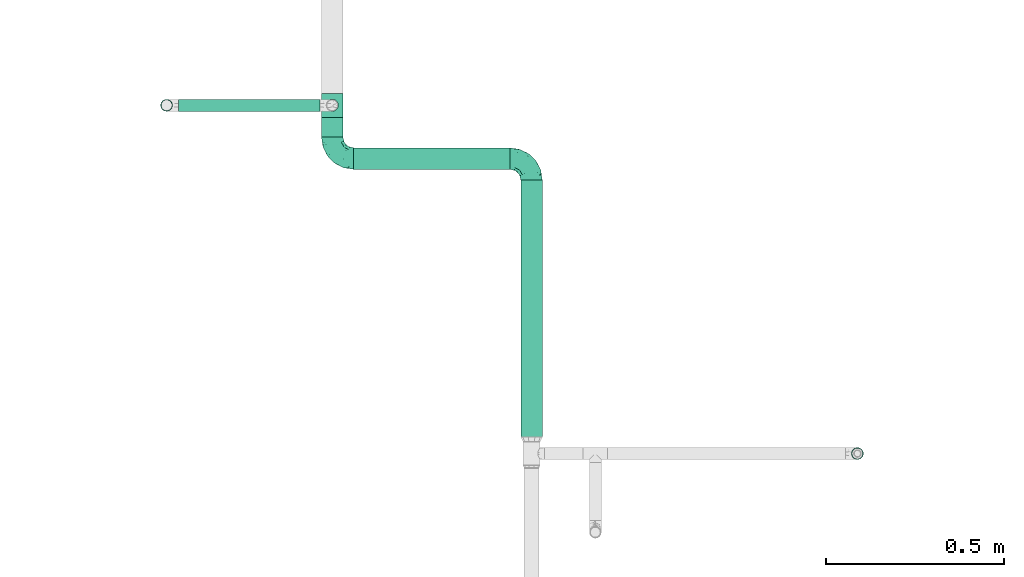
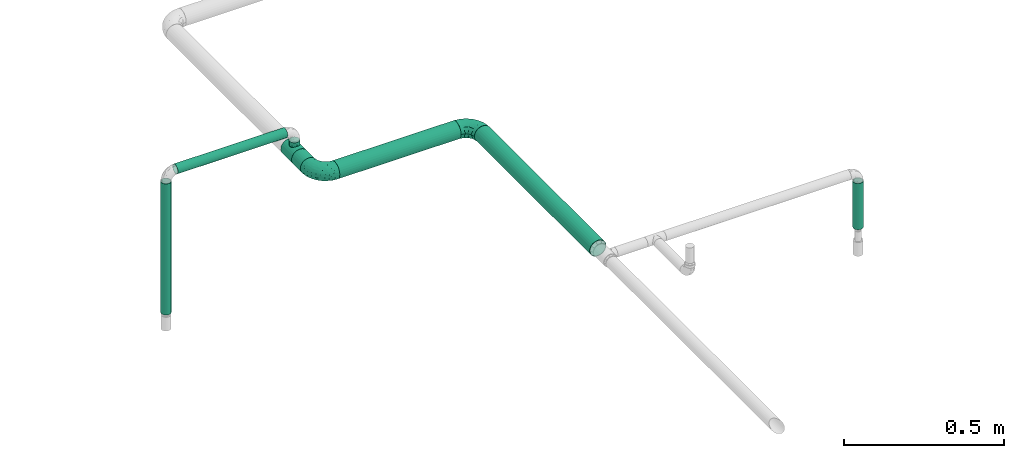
# One storey, part 3 of 43: 6 flow segments, 3 flow fittings.
"""IFC2X3 building model written with IfcOpenShell, lengths in millimetres."""

import ifcopenshell
import ifcopenshell.guid

model = None  # the IFC model being written
_history = None  # IfcOwnerHistory: only IFC2X3 demands one
_inside = {}  # id of a spatial element -> (the spatial element, [elements in it])
_under = {}  # id of a project, library or spatial element -> (it, [spatial elements below it])
_declared = {}  # id of a project -> (the project, [libraries it declares])
_typed = {}  # id of a type object -> (the type object, [elements of that type])
_made_of = {}  # id of a material, layer set ... -> (it, [elements and type objects made of it])


def new_model(schema):
    """Start an empty IFC model of exactly this schema.

    Asked for "IFC4X3", IfcOpenShell would pick the latest addendum, in which some entities
    have other attributes; the version numbers below select the first issue.
    IFC2X3 requires an IfcOwnerHistory on every rooted entity: one is made here for all.
    """
    global model, _history
    if schema == "IFC4X3":
        model = ifcopenshell.file(schema_version=(4, 3, 0, 0))
    else:
        model = ifcopenshell.file(schema=schema)
    _inside.clear()
    _under.clear()
    _declared.clear()
    _typed.clear()
    _made_of.clear()
    _history = None
    if model.schema == "IFC2X3":
        org = make("IfcOrganization", Name="unknown")
        user = make(
            "IfcPersonAndOrganization",
            ThePerson=make("IfcPerson", FamilyName="unknown"),
            TheOrganization=org,
        )
        app = make(
            "IfcApplication",
            ApplicationDeveloper=org,
            Version="unknown",
            ApplicationFullName="unknown",
            ApplicationIdentifier="unknown",
        )
        _history = make(
            "IfcOwnerHistory",
            OwningUser=user,
            OwningApplication=app,
            ChangeAction="ADDED",
            CreationDate=0,
        )
    return model


def make(cls, **values):
    """One entity of the class cls with the attributes given. An attribute that is None is left unset."""
    return model.create_entity(
        cls, **{name: value for name, value in values.items() if value is not None}
    )


def entity(cls, *values):
    """Any entity or typed value of the class cls, its attributes in the order of the schema. None: left unset."""
    e = model.create_entity(cls)
    for i, value in enumerate(values):
        if value is not None:
            e[i] = value
    return e


def rooted(cls, **values):
    """An entity with a GlobalId (a new one), such as an element, a storey or a relation."""
    return make(cls, GlobalId=ifcopenshell.guid.new(), OwnerHistory=_history, **values)


def si_unit(unit_type, name, prefix=None):
    """IfcSIUnit, for example si_unit("LENGTHUNIT", "METRE", prefix="MILLI")."""
    return make("IfcSIUnit", UnitType=unit_type, Prefix=prefix, Name=name)


def converted_unit(unit_type, name, factor, base, dimensions=None, offset=None):
    """IfcConversionBasedUnit, such as the inch: factor (a typed value) times the base unit."""
    return make(
        "IfcConversionBasedUnit"
        if offset is None
        else "IfcConversionBasedUnitWithOffset",
        ConversionOffset=offset,
        Dimensions=None
        if dimensions is None
        else entity("IfcDimensionalExponents", *dimensions),
        UnitType=unit_type,
        Name=name,
        ConversionFactor=make(
            "IfcMeasureWithUnit", ValueComponent=factor, UnitComponent=base
        ),
    )


def derived_unit(unit_type, elements):
    """IfcDerivedUnit: a product of units, each with its exponent."""
    return make(
        "IfcDerivedUnit",
        Elements=[
            make("IfcDerivedUnitElement", Unit=unit, Exponent=power)
            for unit, power in elements
        ],
        UnitType=unit_type,
    )


def assignment(units):
    """IfcUnitAssignment: the units of a project."""
    return None if units is None else make("IfcUnitAssignment", Units=units)


def point(xyz):
    """IfcCartesianPoint."""
    return None if xyz is None else make("IfcCartesianPoint", Coordinates=xyz)


def direction(xyz):
    """IfcDirection."""
    return None if xyz is None else make("IfcDirection", DirectionRatios=xyz)


def frame(location, z_axis=None, x_axis=None):
    """IfcAxis2Placement3D, a coordinate frame: its origin and axes. An axis left out is left unset."""
    return make(
        "IfcAxis2Placement3D",
        Location=point(location),
        Axis=direction(z_axis),
        RefDirection=direction(x_axis),
    )


def frame_2d(location, x_axis=None):
    """IfcAxis2Placement2D, a coordinate frame in the plane: its origin and x axis."""
    return make(
        "IfcAxis2Placement2D", Location=point(location), RefDirection=direction(x_axis)
    )


def origin_with_axes():
    """The frame at (0, 0, 0) with the z axis (0, 0, 1) and the x axis (1, 0, 0) written out."""
    return frame((0.0, 0.0, 0.0), z_axis=(0.0, 0.0, 1.0), x_axis=(1.0, 0.0, 0.0))


def origin_2d_with_axis():
    """The frame at (0, 0) in the plane with the x axis (1, 0) written out."""
    return frame_2d((0.0, 0.0), x_axis=(1.0, 0.0))


def place(relative_to, where):
    """IfcLocalPlacement: puts the frame where relative to a parent placement (None: the world)."""
    return make(
        "IfcLocalPlacement", PlacementRelTo=relative_to, RelativePlacement=where
    )


def context(
    kind, dimensions, precision=None, world=None, true_north=None, identifier=None
):
    """IfcGeometricRepresentationContext, for example the 3D "Model" context."""
    return make(
        "IfcGeometricRepresentationContext",
        ContextIdentifier=identifier,
        ContextType=kind,
        CoordinateSpaceDimension=dimensions,
        Precision=precision,
        WorldCoordinateSystem=world,
        TrueNorth=true_north,
    )


def subcontext(parent, identifier, kind, view, scale=None):
    """IfcGeometricRepresentationSubContext, for example "Body" below "Model"."""
    return make(
        "IfcGeometricRepresentationSubContext",
        ContextIdentifier=identifier,
        ContextType=kind,
        ParentContext=parent,
        TargetScale=scale,
        TargetView=view,
    )


def project(units=None, contexts=None):
    """IfcProject with its units and contexts."""
    return rooted(
        "IfcProject",
        Name="project",
        RepresentationContexts=contexts,
        UnitsInContext=assignment(units),
    )


def spatial(cls, under=None, at=None, **own):
    """A site, building, storey or space (cls), placed at a placement, below another one or the project."""
    s = rooted(cls, ObjectPlacement=at, **own)
    if under is not None:
        _under.setdefault(under.id(), (under, []))[1].append(s)
    return s


def profile(cls, at=None, kind="AREA", **sizes):
    """A parametric profile (cls). Its sizes go by their IFC names, for example OverallWidth=200.0."""
    return make(cls, ProfileType=kind, Position=at, **sizes)


def hollow_circle(**sizes):
    """IfcCircleHollowProfileDef."""
    return profile("IfcCircleHollowProfileDef", **sizes)


def extrude(swept, where, along, depth):
    """IfcExtrudedAreaSolid: the profile swept, set in the frame where, extruded along a direction by depth."""
    return make(
        "IfcExtrudedAreaSolid",
        SweptArea=swept,
        Position=where,
        ExtrudedDirection=direction(along),
        Depth=depth,
    )


def faces_of(points, faces, orient=None, outer=None):
    """IfcFace entities. A face is a list of loops; a loop is a list of indices into points, from 0.

    orient and outer hold one flag for each loop. By default every Orientation is true, the
    first loop of a face is its IfcFaceOuterBound and the others are IfcFaceBound.
    """
    made = []
    for i, loops in enumerate(faces):
        bounds = []
        for j, loop in enumerate(loops):
            is_outer = j == 0 if outer is None else outer[i][j]
            bounds.append(
                make(
                    "IfcFaceOuterBound" if is_outer else "IfcFaceBound",
                    Bound=make("IfcPolyLoop", Polygon=[points[k] for k in loop]),
                    Orientation=True if orient is None else orient[i][j],
                )
            )
        made.append(make("IfcFace", Bounds=bounds))
    return made


def open_shell(faces, orient=None, outer=None):
    """The faces of one IfcOpenShell. surface_model builds it on its shared points."""
    return ("IfcOpenShell", faces, orient, outer)


def surface_model(cls, points, shells):
    """IfcFaceBasedSurfaceModel or IfcShellBasedSurfaceModel (cls): surfaces that need not close."""
    shared = [point(p) for p in points]
    made = [make(c, CfsFaces=faces_of(shared, fs, o, b)) for c, fs, o, b in shells]
    if cls == "IfcFaceBasedSurfaceModel":
        return make(cls, FbsmFaces=made)
    return make(cls, SbsmBoundary=made)


def shape(context_of_items, identifier, shape_type, items):
    """IfcShapeRepresentation: the items that make up one representation, for example the "Body"."""
    return make(
        "IfcShapeRepresentation",
        ContextOfItems=context_of_items,
        RepresentationIdentifier=identifier,
        RepresentationType=shape_type,
        Items=items,
    )


def source(mapping_origin, context_of_items, identifier, shape_type, items):
    """IfcRepresentationMap: a shape defined once, which mapped items show again and again."""
    return make(
        "IfcRepresentationMap",
        MappingOrigin=mapping_origin,
        MappedRepresentation=shape(context_of_items, identifier, shape_type, items),
    )


def transform(
    local_origin,
    x_axis=None,
    y_axis=None,
    z_axis=None,
    scale=None,
    scale2=None,
    scale3=None,
    uniform=True,
):
    """IfcCartesianTransformationOperator3D, or its non-uniform kind. x_axis, y_axis, z_axis: its Axis1, 2, 3."""
    if uniform:
        return make(
            "IfcCartesianTransformationOperator3D",
            Axis1=direction(x_axis),
            Axis2=direction(y_axis),
            LocalOrigin=point(local_origin),
            Scale=scale,
            Axis3=direction(z_axis),
        )
    return make(
        "IfcCartesianTransformationOperator3DnonUniform",
        Axis1=direction(x_axis),
        Axis2=direction(y_axis),
        LocalOrigin=point(local_origin),
        Scale=scale,
        Axis3=direction(z_axis),
        Scale2=scale2,
        Scale3=scale3,
    )


def mapped(mapping_source, mapping_target):
    """IfcMappedItem: shows the shape of a source again, moved by a transform."""
    return make(
        "IfcMappedItem", MappingSource=mapping_source, MappingTarget=mapping_target
    )


def made_of(thing, what):
    """Note that an element or type object is made of a material, layer set ...; save() writes the relation."""
    if what is not None:
        _made_of.setdefault(what.id(), (what, []))[1].append(thing)
    return thing


def type_object(cls, material=None, **own):
    """A type object (cls), such as IfcWallType, which elements share."""
    return made_of(rooted(cls, **own), material)


def element(
    cls,
    number,
    at=None,
    inside=None,
    cuts=None,
    type_object=None,
    material=None,
    context=None,
    identifier="Body",
    shape_type=None,
    held_by="IfcProductDefinitionShape",
    body=None,
    shapes=None,
    **own,
):
    """One element of the class cls, such as IfcWall. Its Tag is "e" and its number.

    at: its placement. inside: the storey or other place that contains it. cuts: it is an
    opening in that element (IfcRelVoidsElement). A single representation is given by context,
    identifier, shape_type and body (its items); several are given by shapes. held_by: the class
    of the entity that holds the representations. save() writes the other relations.
    """
    e = rooted(cls, Tag="e%d" % number, ObjectPlacement=at, **own)
    if body is not None:
        shapes = [shape(context, identifier, shape_type, body)]
    if shapes is not None:
        e.Representation = make(held_by, Representations=shapes)
    if inside is not None:
        _inside.setdefault(inside.id(), (inside, []))[1].append(e)
    if cuts is not None:
        rooted(
            "IfcRelVoidsElement", RelatingBuildingElement=cuts, RelatedOpeningElement=e
        )
    if type_object is not None:
        _typed.setdefault(type_object.id(), (type_object, []))[1].append(e)
    return made_of(e, material)


def aggregate(whole, parts):
    """IfcRelAggregates: a whole, such as a stair, and the parts it consists of."""
    return rooted("IfcRelAggregates", RelatingObject=whole, RelatedObjects=parts)


def save(model, path):
    """Write the relations noted so far, then the file.

    IfcRelAggregates (storeys below a building ...), IfcRelContainedInSpatialStructure (elements
    in a storey), IfcRelDefinesByType, IfcRelAssociatesMaterial and IfcRelDeclares: one each for
    every whole, place, type object, material and project.
    """
    for whole, parts in _under.values():
        aggregate(whole, parts)
    for where, things in _inside.values():
        rooted(
            "IfcRelContainedInSpatialStructure",
            RelatedElements=things,
            RelatingStructure=where,
        )
    for kind, things in _typed.values():
        rooted("IfcRelDefinesByType", RelatedObjects=things, RelatingType=kind)
    for what, things in _made_of.values():
        rooted("IfcRelAssociatesMaterial", RelatedObjects=things, RelatingMaterial=what)
    for by, libraries in _declared.values():
        rooted("IfcRelDeclares", RelatingContext=by, RelatedDefinitions=libraries)
    model.write(path)


model = new_model("IFC2X3")

# Units and contexts
model_context = context("Model", 3, precision=0.01, world=frame((0.0, 4.29681676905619e-09, 0.0)), true_north=direction((4.01073788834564e-13, 1.0)))
plan_context = context("Plan", 3, precision=0.01, world=frame((0.0, 4.29681676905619e-09, 0.0)), true_north=direction((4.01073788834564e-13, 1.0)))
body_context = subcontext(model_context, "Body", "Model", "MODEL_VIEW")
ifc_project = project(units=[converted_unit("PLANEANGLEUNIT", "DEGREE", entity("IfcPositiveLengthMeasure", 0.0174532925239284), si_unit("PLANEANGLEUNIT", "RADIAN"), dimensions=[0, 0, 0, 0, 0, 0, 0]), si_unit("AREAUNIT", "SQUARE_METRE"), si_unit("LENGTHUNIT", "METRE", prefix="MILLI"), si_unit("MASSUNIT", "GRAM", prefix="KILO"), si_unit("POWERUNIT", "WATT"), si_unit("PRESSUREUNIT", "PASCAL"), si_unit("FORCEUNIT", "NEWTON", prefix="KILO"), si_unit("ELECTRICVOLTAGEUNIT", "VOLT"), si_unit("ELECTRICCURRENTUNIT", "AMPERE"), si_unit("THERMODYNAMICTEMPERATUREUNIT", "DEGREE_CELSIUS"), si_unit("TIMEUNIT", "SECOND"), si_unit("VOLUMEUNIT", "CUBIC_METRE"), derived_unit("LINEARVELOCITYUNIT", [(si_unit("LENGTHUNIT", "METRE"), 1), (si_unit("TIMEUNIT", "SECOND"), -1)]), derived_unit("VOLUMETRICFLOWRATEUNIT", [(si_unit("VOLUMEUNIT", "CUBIC_METRE"), 1), (si_unit("TIMEUNIT", "SECOND"), -1)]), derived_unit("THERMALTRANSMITTANCEUNIT", [(si_unit("POWERUNIT", "WATT"), 1), (si_unit("THERMODYNAMICTEMPERATUREUNIT", "KELVIN"), -1), (si_unit("AREAUNIT", "SQUARE_METRE"), -1)]), derived_unit("SOUNDPRESSUREUNIT", [(si_unit("PRESSUREUNIT", "PASCAL"), 1)])], contexts=[model_context, plan_context])

# Site, building, storey
site_placement = place(None, frame((0.0, -4.29681676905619e-09, 0.0), z_axis=(0.0, 0.0, 1.0), x_axis=(1.0, 0.0, 0.0)))
site = spatial("IfcSite", under=ifc_project, at=site_placement, CompositionType="ELEMENT")
building_placement = place(site_placement, frame((0.0, 4.29681676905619e-09, 0.0), z_axis=(0.0, 0.0, 1.0), x_axis=(1.0, 0.0, 0.0)))
building = spatial("IfcBuilding", under=site, at=building_placement, Name="mc-building", CompositionType="ELEMENT")
storey_placement = place(building_placement, frame((0.0, 0.0, 210900.0), z_axis=(0.0, 0.0, 1.0), x_axis=(1.0, 0.0, 0.0)))
storey = spatial("IfcBuildingStorey", under=building, at=storey_placement, Name="Nivå F", CompositionType="ELEMENT", Elevation=210900.0)

# Flow fittings
pipe_fitting_type_1 = type_object("IfcPipeFittingType", Name="magi_pipe_fe_tee_centric_90_NOR", PredefinedType="JUNCTION")
shared_shape_1 = source(origin_with_axes(), body_context, "Body", "SurfaceModel", [
    surface_model("IfcShellBasedSurfaceModel", [(-33.8, 15.1, -26.15397), (-33.8, 7.81634, -29.17096), (-33.8, 0.0, -30.2), (-33.8, 29.17096, -7.81634), (-33.8, 26.15397, -15.1), (-33.8, 21.35462, -21.35462), (-33.8, 30.2, 0.0), (-33.8, -30.2, 0.0), (-33.8, -15.1, -26.15397), (-33.8, -21.35462, -21.35462), (-33.8, -7.81634, -29.17096), (-33.8, -26.15397, -15.1), (-33.8, -29.17096, -7.81634), (-33.8, 26.15397, 15.1), (-33.8, 29.17096, 7.81634), (-33.8, 15.1, 26.15397), (-33.8, -21.35462, 21.35462), (-33.8, 21.35462, 21.35462), (-33.8, 7.81634, 29.17096), (-33.8, -29.17096, 7.81634), (-33.8, -26.15397, 15.1), (-33.8, -7.81634, 29.17096), (-33.8, 0.0, 30.2), (-33.8, -15.1, 26.15397), (33.8, 29.17096, -7.81634), (33.8, 0.0, -30.2), (33.8, 7.81634, -29.17096), (33.8, 21.35462, -21.35462), (33.8, 15.1, -26.15397), (33.8, 26.15397, -15.1), (33.8, -30.2, 0.0), (33.8, -7.81634, -29.17096), (33.8, -21.35462, -21.35462), (33.8, -15.1, -26.15397), (33.8, -29.17096, -7.81634), (33.8, -26.15397, -15.1), (33.8, 30.2, 0.0), (33.8, 29.17096, 7.81634), (33.8, 26.15397, 15.1), (33.8, -29.17096, 7.81634), (33.8, 15.1, 26.15397), (33.8, 7.81634, 29.17096), (33.8, 21.35462, 21.35462), (33.8, -21.35462, 21.35462), (33.8, -26.15397, 15.1), (33.8, -15.1, 26.15397), (33.8, 0.0, 30.2), (33.8, -7.81634, 29.17096), (33.8, -29.68548, 3.90817), (15.846, -29.62306, 5.87488), (16.373, -29.91153, 2.93744), (12.91037, -28.16217, 10.90561), (2.99213, -25.2068, 16.63301), (16.9, -30.2, 0.0), (33.8, -27.66246, 11.45817), (8.50854, -26.43531, 14.60187), (-8.51006, -26.43579, 14.60099), (-33.8, -27.66246, 11.45817), (-12.91447, -28.16405, 10.90075), (-15.84655, -29.62335, 5.87341), (-33.8, -29.68548, 3.90817), (-16.37327, -29.91168, 2.93671), (-16.9, -30.2, 0.0), (-2.99705, -25.20739, 16.63213), (2.99213, -25.2068, -16.63301), (-16.37327, -29.91168, -2.93671), (8.50854, -26.43531, -14.60187), (33.8, -27.66246, -11.45817), (16.373, -29.91153, -2.93744), (-33.8, -29.68548, -3.90817), (-15.84655, -29.62335, -5.87341), (15.846, -29.62306, -5.87488), (12.91037, -28.16217, -10.90561), (33.8, -29.68548, -3.90817), (-2.99705, -25.20739, -16.63213), (-8.51006, -26.43579, -14.60099), (-12.91447, -28.16405, -10.90075), (-33.8, -27.66246, -11.45817), (4.37404, -45.3, -16.32415), (-16.9, -45.3, 0.0), (0.0, -45.3, -16.9), (14.63583, -45.3, -8.45), (8.45, -45.3, -14.63583), (16.32415, -45.3, -4.37404), (11.9501, -45.3, -11.9501), (-11.9501, -45.3, -11.9501), (-8.45, -45.3, -14.63583), (-4.37404, -45.3, -16.32415), (-14.63583, -45.3, -8.45), (-16.32415, -45.3, -4.37404), (16.9, -45.3, 0.0), (8.45, -45.3, 14.63583), (16.32415, -45.3, 4.37404), (14.63583, -45.3, 8.45), (-8.45, -45.3, 14.63583), (11.9501, -45.3, 11.9501), (4.37404, -45.3, 16.32415), (-16.32415, -45.3, 4.37404), (-11.9501, -45.3, 11.9501), (-14.63583, -45.3, 8.45), (0.0, -45.3, 16.9), (-4.37404, -45.3, 16.32415), (-5.75355, -25.82159, 15.61656), (-0.00246, -25.20709, 16.63257), (5.75034, -25.82105, 15.61744), (5.75034, -25.82105, -15.61744), (-0.00246, -25.20709, -16.63257), (-5.75355, -25.82159, -15.61656)], [open_shell([[[0, 1, 2]], [[3, 0, 2]], [[0, 3, 4]], [[5, 0, 4]], [[6, 2, 7]], [[8, 9, 10]], [[9, 2, 10]], [[11, 12, 9]], [[7, 9, 12]], [[9, 7, 2]], [[6, 3, 2]], [[13, 14, 6]], [[7, 15, 13]], [[7, 16, 15]], [[17, 13, 15]], [[18, 15, 16]], [[19, 20, 7]], [[7, 20, 16]], [[21, 22, 23]], [[16, 23, 22]], [[16, 22, 18]], [[7, 13, 6]], [[24, 25, 26]], [[27, 26, 28]], [[29, 24, 26]], [[29, 26, 27]], [[25, 24, 30]], [[31, 32, 33]], [[32, 31, 34]], [[32, 34, 35]], [[34, 31, 30]], [[31, 25, 30]], [[24, 36, 30]], [[36, 37, 38]], [[39, 36, 38]], [[40, 41, 38]], [[40, 38, 42]], [[43, 38, 41]], [[39, 43, 44]], [[39, 38, 43]], [[45, 46, 47]], [[46, 45, 43]], [[41, 46, 43]], [[36, 39, 30]], [[48, 39, 49]], [[30, 48, 50]], [[39, 51, 49]], [[44, 43, 52]], [[30, 50, 53]], [[51, 54, 55]], [[52, 55, 44]], [[48, 49, 50]], [[43, 16, 52]], [[55, 54, 44]], [[56, 57, 58]], [[59, 60, 61]], [[62, 61, 7]], [[59, 58, 19]], [[56, 63, 20]], [[51, 39, 54]], [[20, 57, 56]], [[20, 63, 16]], [[58, 57, 19]], [[63, 52, 16]], [[7, 61, 60]], [[59, 19, 60]], [[43, 23, 16]], [[22, 47, 46]], [[21, 45, 47]], [[18, 46, 41]], [[38, 37, 14]], [[17, 40, 42]], [[13, 42, 38]], [[41, 40, 15]], [[6, 37, 36]], [[23, 45, 21]], [[21, 47, 22]], [[18, 22, 46]], [[41, 15, 18]], [[15, 40, 17]], [[13, 17, 42]], [[14, 13, 38]], [[37, 6, 14]], [[45, 23, 43]], [[4, 24, 29]], [[3, 36, 24]], [[5, 29, 27]], [[25, 31, 10]], [[1, 28, 26]], [[2, 26, 25]], [[27, 28, 0]], [[8, 31, 33]], [[6, 36, 3]], [[3, 24, 4]], [[5, 4, 29]], [[27, 0, 5]], [[0, 28, 1]], [[2, 1, 26]], [[10, 2, 25]], [[31, 8, 10]], [[33, 9, 8]], [[32, 35, 64]], [[7, 65, 62]], [[66, 64, 35]], [[67, 66, 35]], [[32, 64, 9]], [[53, 68, 30]], [[69, 70, 65]], [[71, 72, 34]], [[71, 73, 68]], [[66, 67, 72]], [[34, 72, 67]], [[74, 75, 11]], [[76, 12, 77]], [[11, 9, 74]], [[76, 77, 75]], [[74, 9, 64]], [[76, 70, 12]], [[71, 34, 73]], [[70, 69, 12]], [[65, 7, 69]], [[30, 68, 73]], [[77, 11, 75]], [[32, 9, 33]], [[78, 79, 80]], [[81, 78, 82]], [[81, 83, 78]], [[81, 82, 84]], [[79, 78, 83]], [[80, 85, 86]], [[86, 87, 80]], [[88, 79, 89]], [[85, 80, 88]], [[79, 88, 80]], [[83, 90, 79]], [[91, 90, 92]], [[91, 92, 93]], [[94, 79, 91]], [[91, 93, 95]], [[94, 91, 96]], [[97, 98, 99]], [[98, 97, 94]], [[94, 100, 101]], [[97, 79, 94]], [[96, 100, 94]], [[91, 79, 90]], [[97, 61, 79]], [[58, 99, 98]], [[97, 99, 59]], [[98, 94, 56]], [[61, 62, 79]], [[59, 99, 58]], [[101, 63, 102]], [[56, 58, 98]], [[100, 52, 103]], [[91, 104, 96]], [[100, 96, 52]], [[50, 49, 92]], [[50, 90, 53]], [[104, 91, 55]], [[102, 94, 101]], [[102, 56, 94]], [[100, 63, 101]], [[97, 59, 61]], [[55, 91, 95]], [[95, 51, 55]], [[52, 96, 104]], [[92, 49, 93]], [[90, 50, 92]], [[93, 49, 51]], [[93, 51, 95]], [[103, 63, 100]], [[83, 68, 90]], [[72, 81, 84]], [[83, 81, 71]], [[84, 82, 66]], [[68, 53, 90]], [[71, 81, 72]], [[78, 64, 105]], [[66, 72, 84]], [[80, 74, 106]], [[86, 107, 87]], [[65, 70, 89]], [[105, 82, 78]], [[105, 66, 82]], [[75, 86, 85]], [[83, 71, 68]], [[70, 88, 89]], [[65, 79, 62]], [[85, 88, 76]], [[80, 64, 78]], [[87, 107, 74]], [[74, 80, 87]], [[75, 107, 86]], [[75, 85, 76]], [[76, 88, 70]], [[79, 65, 89]], [[106, 64, 80]]])]),
])
flow_fitting_placement = place(storey_placement, frame((607319.57252, 693237.31902, 2660.0), z_axis=(1.0, 0.0, 0.0), x_axis=(0.0, -1.0, 0.0)))
element("IfcFlowFitting", 1, at=flow_fitting_placement, inside=storey, type_object=pipe_fitting_type_1, Name="magi_pipe_fe_tee_centric_90_NOR", context=body_context, shape_type="MappedRepresentation", body=[
    mapped(shared_shape_1, transform((0.0, 0.0, 0.0), scale=1.0)),
])
pipe_fitting_type_2 = type_object("IfcPipeFittingType", Name="magi_pipe_fe_elbow_short_001", PredefinedType="BEND")
shared_shape_2 = source(origin_with_axes(), body_context, "Body", "SurfaceModel", [
    surface_model("IfcShellBasedSurfaceModel", [(-60.4, 15.1, -26.15397), (-60.4, 7.81634, -29.17096), (-60.4, 0.0, -30.2), (-60.4, -21.35462, -21.35462), (-60.4, 26.15397, -15.1), (-60.4, 21.35462, -21.35462), (-60.4, 29.17096, -7.81634), (-60.4, -15.1, -26.15397), (-60.4, -7.81634, -29.17096), (-60.4, -26.15397, -15.1), (-60.4, -29.17096, -7.81634), (-60.4, -30.2, 0.0), (-60.4, -29.17096, 7.81634), (-60.4, 29.17096, 7.81634), (-60.4, -21.35462, 21.35462), (-60.4, 26.15397, 15.1), (-60.4, 21.35462, 21.35462), (-60.4, 7.81634, 29.17096), (-60.4, 15.1, 26.15397), (-60.4, -26.15397, 15.1), (-60.4, -7.81634, 29.17096), (-60.4, 0.0, 30.2), (-60.4, -15.1, 26.15397), (-60.4, 30.2, 0.0), (0.0, 60.4, -30.2), (-7.81634, 60.4, -29.17096), (-15.1, 60.4, -26.15397), (-26.15397, 60.4, -15.1), (-29.17096, 60.4, -7.81634), (-21.35462, 60.4, -21.35462), (29.17096, 60.4, -7.81634), (7.81634, 60.4, -29.17096), (21.35462, 60.4, -21.35462), (15.1, 60.4, -26.15397), (26.15397, 60.4, -15.1), (29.17096, 60.4, 7.81634), (30.2, 60.4, 0.0), (-29.17096, 60.4, 7.81634), (21.35462, 60.4, 21.35462), (-21.35462, 60.4, 21.35462), (-26.15397, 60.4, 15.1), (-15.1, 60.4, 26.15397), (-7.81634, 60.4, 29.17096), (26.15397, 60.4, 15.1), (15.1, 60.4, 26.15397), (0.0, 60.4, 30.2), (7.81634, 60.4, 29.17096), (-30.2, 60.4, 0.0), (-40.79975, -26.48639, 9.49143), (-44.2927, -23.46036, 16.95222), (-32.40306, -25.76572, 0.0), (-45.54716, -27.84754, 0.0), (-7.73382, -10.42985, 11.64553), (-2.102, -8.06735, 6.35117), (1.74449, -1.74448, 12.51332), (-46.13593, -4.00068, 29.68351), (-42.2898, 4.62925, 30.14853), (10.31662, 7.37496, 11.34434), (18.44156, 24.57514, 15.02148), (7.07276, 10.95732, 19.27498), (-30.06693, -0.27102, 29.27145), (-44.17726, -11.39441, 27.16031), (-23.4551, -7.13383, 25.24246), (-38.74025, -17.25266, 22.43475), (-27.059, -23.14697, 6.2131), (-19.77486, -19.33133, 0.0), (-10.95732, -7.07276, 19.27498), (-5.39458, 5.39458, 24.69106), (-29.52069, 48.20084, 13.12597), (-25.22813, 47.01796, 19.8404), (-11.27311, 52.093, 28.2877), (-4.13904, 45.17494, 30.12582), (-46.55352, 11.8443, 28.52822), (-7.88305, 20.22717, 29.65331), (-15.00576, 5.54025, 28.20072), (-3.0852, 16.31623, 27.75343), (-52.24998, 18.2886, 24.60768), (-10.49591, 29.69865, 30.14582), (-22.36958, 22.36958, 29.4662), (-17.98262, 13.19715, 30.04443), (-47.74519, 32.16745, 6.63994), (-48.21585, 29.51581, 13.12396), (-37.49729, 37.49729, 11.28901), (-47.20967, 25.1754, 19.81929), (17.25266, 38.74025, 22.43475), (-31.32046, 40.03273, 17.09289), (11.39441, 44.17725, 27.16031), (23.46036, 44.2927, 16.95222), (26.48639, 40.79975, 9.49143), (-7.14666, -12.89694, 0.0), (-14.66463, -16.61192, 7.82462), (4.00068, 46.13593, 29.68351), (-33.18602, 12.93608, 29.65955), (-29.63414, 7.40029, 30.18711), (19.33133, 19.77486, 0.0), (23.14697, 27.059, 6.2131), (16.61192, 14.66463, 7.82462), (27.84754, 45.54716, 0.0), (-32.10611, 20.49149, 27.93323), (-24.57514, -18.44156, 15.02148), (-21.89487, 39.03366, 25.38224), (-18.45005, 50.6405, 24.73297), (-31.78933, 48.71949, 6.47886), (-37.84917, 39.61073, 5.315), (13.91334, 24.32737, 20.46816), (7.13383, 23.4551, 25.24246), (-34.24603, 45.3, 0.0), (-27.95749, 31.89166, 24.81537), (-41.58677, 20.50028, 25.43151), (-0.46157, 0.46157, 17.84239), (-17.23338, 31.26213, 29.03145), (-24.05994, 29.23812, 27.47858), (-13.06094, 40.92174, 28.76128), (-31.83392, 33.72702, 21.39203), (-38.78737, 32.45032, 16.84022), (0.27102, 30.06693, 29.27145), (-24.21469, -13.23741, 21.05734), (8.23548, 2.19333, 6.02161), (25.76572, 32.40306, 0.0), (12.89694, 7.14666, 0.0), (-45.3, 34.24603, 0.0), (2.87514, -2.87514, 0.0), (-44.53432, 26.00869, -20.11577), (-48.18822, 29.5248, -13.12766), (-24.67192, -7.62159, -25.33714), (-26.22398, -0.37671, -28.72374), (-12.13397, -0.50536, -24.74577), (-47.80891, 3.81859, -30.10171), (-44.05719, -27.03585, -9.84546), (-37.94552, -22.39569, -16.35738), (-28.81663, -22.64668, -10.132), (-43.93799, 12.32789, -28.63778), (-33.27, 7.1392, -30.19348), (-26.0087, 44.53432, -20.11577), (-48.89164, 31.68872, -6.60822), (-18.95522, 47.41145, -24.9828), (-12.32789, 43.93799, -28.63778), (-38.42778, 38.42778, -7.21049), (18.04263, 43.69152, -22.80146), (10.42233, 38.24532, -26.85918), (11.90576, 51.00473, -27.48545), (-5.88381, -10.62327, -7.95335), (-5.9694, -7.83116, -13.76182), (3.24899, -2.56331, -7.96861), (-17.62229, 16.32998, -30.18286), (-28.62959, 17.86952, -29.30113), (-47.41145, 18.95522, -24.98279), (-50.84455, -24.04089, -17.54629), (-29.38053, 34.30665, -22.74674), (-27.91099, 27.91099, -26.51666), (-36.91219, 25.51094, -23.99233), (2.63361, -0.55507, -12.94367), (-43.69152, -18.04263, -22.80146), (22.39569, 37.94552, -16.35738), (27.03585, 44.05719, -9.84546), (22.64668, 28.81663, -10.132), (-51.00473, -11.90576, -27.48545), (3.80785, 44.49426, -29.64782), (-19.0921, -14.69952, -16.47487), (-22.5489, -12.31934, -21.1263), (-10.94772, -7.46239, -18.88204), (-32.95885, -13.78948, -23.71249), (-38.24532, -10.42233, -26.85918), (-44.49427, -3.80785, -29.64782), (-22.6301, 37.15314, -25.58239), (-31.68872, 48.89164, -6.60822), (-3.8186, 47.80891, -30.10171), (-10.66133, 10.66133, -28.51691), (0.37671, 26.22398, -28.72374), (1.27136, 14.18619, -25.18541), (-29.5248, 48.18821, -13.12766), (-36.27113, 36.27113, -14.88553), (24.04089, 50.84455, -17.54629), (17.50188, 24.2636, -16.21902), (9.73525, 11.44907, -16.75087), (12.31934, 22.5489, -21.1263), (6.24176, 25.78208, -26.38266), (-7.1392, 33.27, -30.19348), (-36.7166, 19.4356, -27.21946), (-18.00754, 29.38864, -29.15505), (-0.28629, 0.28629, -17.49884), (-13.98848, -16.88492, -5.19509), (15.48569, 15.00432, -11.24742), (16.88492, 13.98848, -5.19509), (3.55782, 9.20508, -21.18402), (-15.00432, -15.48569, -11.24742)], [open_shell([[[0, 1, 2]], [[0, 2, 3]], [[4, 0, 3]], [[5, 0, 4]], [[6, 4, 3]], [[7, 3, 8]], [[3, 2, 8]], [[9, 10, 3]], [[3, 10, 6]], [[11, 12, 10]], [[13, 6, 10]], [[13, 10, 14]], [[15, 13, 16]], [[17, 18, 16]], [[13, 17, 16]], [[17, 13, 14]], [[19, 14, 12]], [[12, 14, 10]], [[20, 21, 22]], [[17, 14, 22]], [[17, 22, 21]], [[13, 23, 6]], [[24, 25, 26]], [[24, 26, 27]], [[27, 28, 24]], [[27, 26, 29]], [[24, 28, 30]], [[31, 32, 33]], [[31, 24, 32]], [[32, 30, 34]], [[24, 30, 32]], [[30, 35, 36]], [[30, 28, 37]], [[38, 30, 37]], [[39, 37, 40]], [[39, 41, 42]], [[39, 42, 37]], [[38, 37, 42]], [[35, 38, 43]], [[30, 38, 35]], [[44, 45, 46]], [[44, 38, 42]], [[45, 44, 42]], [[28, 47, 37]], [[48, 49, 19]], [[50, 48, 51]], [[52, 53, 54]], [[12, 48, 19]], [[12, 51, 48]], [[21, 55, 56]], [[19, 49, 14]], [[57, 58, 59]], [[60, 61, 62]], [[63, 22, 14]], [[63, 61, 22]], [[64, 50, 65]], [[62, 66, 67]], [[40, 68, 69]], [[42, 70, 71]], [[17, 72, 18]], [[73, 74, 75]], [[18, 76, 16]], [[20, 55, 21]], [[77, 78, 79]], [[80, 81, 82]], [[15, 83, 81]], [[84, 38, 44]], [[23, 13, 80]], [[13, 15, 81]], [[68, 85, 69]], [[83, 15, 16]], [[21, 56, 17]], [[44, 86, 84]], [[16, 76, 83]], [[87, 58, 88]], [[40, 37, 68]], [[89, 90, 65]], [[45, 91, 46]], [[65, 90, 64]], [[45, 42, 71]], [[92, 93, 79]], [[88, 35, 43]], [[43, 38, 87]], [[87, 88, 43]], [[94, 95, 96]], [[88, 97, 35]], [[98, 72, 92]], [[49, 99, 63]], [[69, 100, 101]], [[82, 102, 103]], [[104, 105, 59]], [[106, 102, 47]], [[98, 107, 108]], [[102, 82, 68]], [[86, 44, 46]], [[69, 39, 40]], [[109, 54, 57]], [[110, 100, 111]], [[22, 61, 20]], [[101, 41, 39]], [[70, 42, 41]], [[112, 77, 71]], [[84, 86, 105]], [[96, 95, 58]], [[100, 69, 113]], [[72, 17, 56]], [[108, 113, 83]], [[81, 114, 82]], [[112, 110, 77]], [[91, 71, 115]], [[62, 61, 63]], [[55, 61, 60]], [[116, 99, 66]], [[74, 62, 67]], [[91, 86, 46]], [[105, 86, 115]], [[75, 105, 115]], [[109, 67, 66]], [[59, 105, 67]], [[48, 64, 99]], [[99, 49, 48]], [[63, 14, 49]], [[38, 84, 87]], [[58, 87, 84]], [[92, 72, 56]], [[76, 72, 108]], [[102, 68, 37]], [[82, 114, 85]], [[98, 111, 107]], [[112, 70, 101]], [[114, 83, 113]], [[82, 103, 80]], [[92, 79, 78]], [[115, 71, 77]], [[74, 79, 60]], [[77, 79, 73]], [[71, 91, 45]], [[86, 91, 115]], [[61, 55, 20]], [[56, 55, 60]], [[57, 54, 117]], [[104, 59, 58]], [[116, 66, 62]], [[52, 99, 90]], [[12, 11, 51]], [[97, 88, 118]], [[97, 36, 35]], [[53, 90, 89]], [[90, 53, 52]], [[94, 96, 119]], [[88, 95, 118]], [[117, 54, 53]], [[92, 56, 93]], [[98, 92, 78]], [[111, 98, 78]], [[72, 98, 108]], [[110, 111, 78]], [[107, 111, 100]], [[47, 102, 37]], [[102, 106, 103]], [[106, 120, 103]], [[103, 120, 80]], [[23, 80, 120]], [[13, 81, 80]], [[56, 60, 93]], [[60, 79, 93]], [[117, 121, 119]], [[121, 117, 53]], [[53, 89, 121]], [[119, 96, 117]], [[117, 96, 57]], [[77, 110, 78]], [[100, 110, 112]], [[83, 114, 81]], [[85, 114, 113]], [[69, 85, 113]], [[82, 85, 68]], [[109, 52, 54]], [[99, 52, 66]], [[69, 101, 39]], [[112, 101, 100]], [[100, 113, 107]], [[108, 107, 113]], [[62, 74, 60]], [[75, 74, 67]], [[105, 75, 67]], [[73, 75, 115]], [[77, 73, 115]], [[74, 73, 79]], [[99, 64, 90]], [[50, 64, 48]], [[118, 95, 94]], [[58, 95, 88]], [[58, 57, 96]], [[109, 57, 59]], [[72, 76, 18]], [[83, 76, 108]], [[101, 70, 41]], [[71, 70, 112]], [[58, 84, 104]], [[105, 104, 84]], [[67, 109, 59]], [[52, 109, 66]], [[62, 63, 116]], [[99, 116, 63]], [[122, 4, 123]], [[124, 125, 126]], [[2, 1, 127]], [[128, 129, 130]], [[127, 131, 132]], [[27, 29, 133]], [[120, 134, 23]], [[135, 26, 136]], [[123, 134, 137]], [[138, 139, 140]], [[122, 5, 4]], [[141, 142, 143]], [[144, 132, 145]], [[131, 0, 146]], [[128, 9, 147]], [[148, 149, 150]], [[128, 51, 10]], [[142, 151, 143]], [[152, 3, 7]], [[153, 154, 155]], [[156, 152, 7]], [[31, 157, 24]], [[158, 159, 160]], [[147, 9, 3]], [[129, 152, 161]], [[156, 7, 8]], [[162, 163, 125]], [[154, 34, 30]], [[120, 106, 137]], [[149, 148, 164]], [[47, 28, 165]], [[163, 8, 2]], [[4, 6, 123]], [[25, 166, 136]], [[167, 168, 169]], [[170, 133, 171]], [[25, 24, 166]], [[33, 32, 138]], [[157, 31, 140]], [[28, 27, 170]], [[32, 34, 172]], [[26, 135, 29]], [[132, 131, 145]], [[31, 33, 140]], [[173, 174, 175]], [[169, 168, 176]], [[25, 136, 26]], [[175, 138, 173]], [[168, 177, 157]], [[163, 162, 156]], [[153, 172, 154]], [[9, 128, 10]], [[154, 97, 118]], [[131, 178, 145]], [[0, 5, 146]], [[175, 139, 138]], [[155, 118, 94]], [[131, 1, 0]], [[146, 178, 131]], [[170, 137, 165]], [[149, 179, 145]], [[171, 133, 148]], [[160, 180, 142]], [[65, 181, 89]], [[170, 165, 28]], [[137, 171, 123]], [[172, 138, 32]], [[138, 153, 173]], [[168, 157, 139]], [[166, 157, 177]], [[176, 175, 169]], [[168, 167, 144]], [[154, 30, 97]], [[155, 182, 173]], [[162, 124, 161]], [[147, 152, 129]], [[127, 163, 2]], [[132, 144, 125]], [[132, 125, 163]], [[125, 167, 126]], [[129, 158, 130]], [[30, 36, 97]], [[143, 182, 183]], [[169, 126, 167]], [[5, 122, 146]], [[178, 150, 149]], [[136, 179, 164]], [[133, 29, 135]], [[123, 6, 134]], [[122, 123, 171]], [[133, 170, 27]], [[137, 170, 171]], [[184, 175, 174]], [[180, 160, 126]], [[126, 169, 184]], [[126, 159, 124]], [[51, 128, 50]], [[51, 11, 10]], [[131, 127, 1]], [[163, 127, 132]], [[157, 166, 24]], [[136, 166, 177]], [[164, 179, 149]], [[144, 167, 125]], [[179, 144, 145]], [[168, 144, 177]], [[136, 177, 179]], [[144, 179, 177]], [[141, 121, 89]], [[89, 181, 141]], [[154, 118, 155]], [[183, 155, 94]], [[143, 183, 119]], [[119, 183, 94]], [[155, 183, 182]], [[181, 130, 185]], [[50, 128, 130]], [[130, 181, 65]], [[50, 130, 65]], [[141, 181, 185]], [[142, 141, 185]], [[143, 121, 141]], [[158, 160, 142]], [[142, 180, 151]], [[158, 142, 185]], [[126, 160, 159]], [[130, 158, 185]], [[129, 159, 158]], [[23, 134, 6]], [[120, 137, 134]], [[137, 106, 165]], [[47, 165, 106]], [[174, 151, 180]], [[182, 143, 151]], [[150, 146, 122]], [[149, 145, 178]], [[146, 150, 178]], [[122, 171, 148]], [[148, 150, 122]], [[164, 133, 135]], [[133, 164, 148]], [[164, 135, 136]], [[138, 140, 33]], [[157, 140, 139]], [[154, 172, 34]], [[138, 172, 153]], [[163, 156, 8]], [[152, 156, 162]], [[152, 147, 3]], [[128, 147, 129]], [[155, 173, 153]], [[174, 173, 182]], [[151, 174, 182]], [[174, 180, 184]], [[126, 184, 180]], [[175, 184, 169]], [[168, 139, 176]], [[175, 176, 139]], [[161, 124, 159]], [[125, 124, 162]], [[129, 161, 159]], [[162, 161, 152]], [[143, 119, 121]]])]),
])
for number, where, z_axis, x_axis, name in (
    (2, (607879.57252, 693087.59894, 2660.0), (0.0, 0.0, 1.0), (0.0, 1.0, 0.0), "magi_pipe_fe_elbow_short_001"),
    (3, (607319.57252, 693087.59894, 2660.0), (0.0, 0.0, 1.0), (0.0, -1.0, 0.0), "magi_pipe_fe_elbow_short_001"),
):
    element("IfcFlowFitting", number, at=place(storey_placement, frame(where, z_axis=z_axis, x_axis=x_axis)), inside=storey, type_object=pipe_fitting_type_2, Name=name, context=body_context, shape_type="MappedRepresentation", body=[
        mapped(shared_shape_2, transform((0.0, 0.0, 0.0), scale=1.0)),
    ])

# Flow segments
pipe_segment_type = type_object("IfcPipeSegmentType", Name="Stålrør normaltykke", PredefinedType="RIGIDSEGMENT")
shared_shape_3 = source(origin_with_axes(), body_context, "Body", "SweptSolid", [
    extrude(hollow_circle(Radius=16.9, WallThickness=2.0, at=origin_2d_with_axis()), frame((0.0, 0.0, 0.0), z_axis=(1.0, 0.0, 0.0), x_axis=(0.0, 1.0, 0.0)), (0.0, 0.0, 1.0), 176.8),
])
flow_segment_1_placement = place(storey_placement, frame((608794.57252, 692259.33183, 2626.20000000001), z_axis=(0.0, 1.0, 0.0), x_axis=(0.0, 0.0, -1.0)))
element("IfcFlowSegment", 4, at=flow_segment_1_placement, inside=storey, type_object=pipe_segment_type, Name="Stålrør normaltykke", context=body_context, shape_type="MappedRepresentation", body=[
    mapped(shared_shape_3, transform((0.0, 0.0, 0.0), scale=1.0)),
])
shared_shape_4 = source(origin_with_axes(), body_context, "Body", "SweptSolid", [
    extrude(hollow_circle(Radius=30.1, WallThickness=2.0, at=origin_2d_with_axis()), frame((0.0, 0.0, 0.0), z_axis=(1.0, 0.0, 0.0), x_axis=(0.0, 1.0, 0.0)), (0.0, 0.0, 1.0), 722.1),
])
flow_segment_2_placement = place(storey_placement, frame((607879.57252, 693027.19894, 2660.0), z_axis=(0.0, 0.0, 1.0), x_axis=(0.0, -1.0, 0.0)))
element("IfcFlowSegment", 5, at=flow_segment_2_placement, inside=storey, type_object=pipe_segment_type, Name="Stålrør normaltykke", context=body_context, shape_type="MappedRepresentation", body=[
    mapped(shared_shape_4, transform((0.0, 0.0, 0.0), scale=1.0)),
])
shared_shape_5 = source(origin_with_axes(), body_context, "Body", "SweptSolid", [
    extrude(hollow_circle(Radius=30.1, WallThickness=2.0, at=origin_2d_with_axis()), frame((0.0, 0.0, 0.0), z_axis=(1.0, 0.0, 0.0), x_axis=(0.0, 1.0, 0.0)), (0.0, 0.0, 1.0), 439.2),
])
flow_segment_3_placement = place(storey_placement, frame((607819.17252, 693087.59894, 2660.0), z_axis=(0.0, 0.0, 1.0), x_axis=(-1.0, 0.0, 0.0)))
element("IfcFlowSegment", 6, at=flow_segment_3_placement, inside=storey, type_object=pipe_segment_type, Name="Stålrør normaltykke", context=body_context, shape_type="MappedRepresentation", body=[
    mapped(shared_shape_5, transform((0.0, 0.0, 0.0), scale=1.0)),
])
shared_shape_6 = source(origin_with_axes(), body_context, "Body", "SweptSolid", [
    extrude(hollow_circle(Radius=30.1, WallThickness=2.0, at=origin_2d_with_axis()), frame((0.0, 0.0, 0.0), z_axis=(1.0, 0.0, 0.0), x_axis=(0.0, 1.0, 0.0)), (0.0, 0.0, 1.0), 55.5),
])
flow_segment_4_placement = place(storey_placement, frame((607319.57252, 693147.99894, 2660.0), z_axis=(0.0, 0.0, 1.0), x_axis=(0.0, 1.0, 0.0)))
element("IfcFlowSegment", 7, at=flow_segment_4_placement, inside=storey, type_object=pipe_segment_type, Name="Stålrør normaltykke", context=body_context, shape_type="MappedRepresentation", body=[
    mapped(shared_shape_6, transform((0.0, 0.0, 0.0), scale=1.0)),
])
shared_shape_7 = source(origin_with_axes(), body_context, "Body", "SweptSolid", [
    extrude(hollow_circle(Radius=16.9, WallThickness=2.0, at=origin_2d_with_axis()), frame((0.0, 0.0, 0.0), z_axis=(1.0, 0.0, 0.0), x_axis=(0.0, 1.0, 0.0)), (0.0, 0.0, 1.0), 397.4),
])
flow_segment_5_placement = place(storey_placement, frame((606888.37252, 693237.31902, 2744.49987), z_axis=(0.0, 0.0, 1.0), x_axis=(1.0, 0.0, 0.0)))
element("IfcFlowSegment", 8, at=flow_segment_5_placement, inside=storey, type_object=pipe_segment_type, Name="Stålrør normaltykke", context=body_context, shape_type="MappedRepresentation", body=[
    mapped(shared_shape_7, transform((0.0, 0.0, 0.0), scale=1.0)),
])
shared_shape_8 = source(origin_with_axes(), body_context, "Body", "SweptSolid", [
    extrude(hollow_circle(Radius=16.9, WallThickness=2.0, at=origin_2d_with_axis()), frame((0.0, 0.0, 0.0), z_axis=(1.0, 0.0, 0.0), x_axis=(0.0, 1.0, 0.0)), (0.0, 0.0, 1.0), 501.3),
])
flow_segment_6_placement = place(storey_placement, frame((606854.57252, 693237.31902, 2710.69987000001), z_axis=(0.0, -1.0, 0.0), x_axis=(0.0, 0.0, -1.0)))
element("IfcFlowSegment", 9, at=flow_segment_6_placement, inside=storey, type_object=pipe_segment_type, Name="Stålrør normaltykke", context=body_context, shape_type="MappedRepresentation", body=[
    mapped(shared_shape_8, transform((0.0, 0.0, 0.0), scale=1.0)),
])

save(model, "model.ifc")
